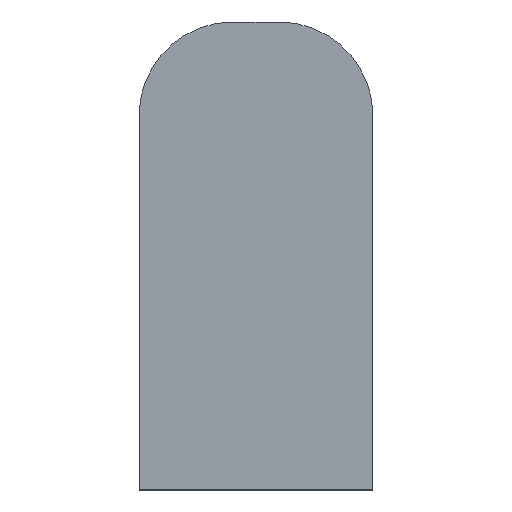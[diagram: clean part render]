
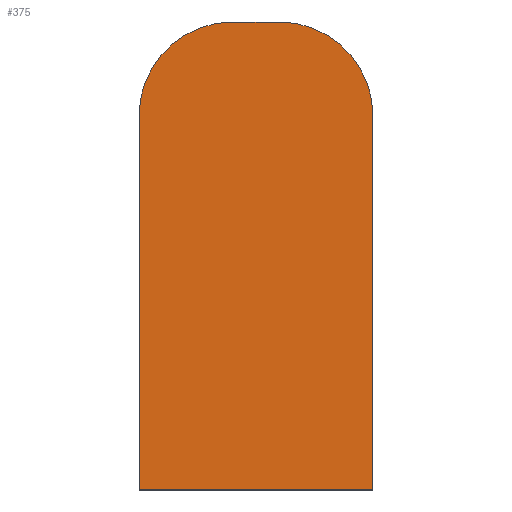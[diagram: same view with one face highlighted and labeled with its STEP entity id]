
A CAD part, top view. The second image highlights one B-rep face of the part: STEP entity #375.
In plain terms, the highlighted planar face has unit normal (0, 0, 1).
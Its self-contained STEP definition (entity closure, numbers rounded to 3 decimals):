
#14 = VERTEX_POINT ( 'NONE', #277 ) ;
#23 = CARTESIAN_POINT ( 'NONE',  ( 20., 0., 5. ) ) ;
#27 = DIRECTION ( 'NONE',  ( 1., 0., 0. ) ) ;
#44 = CARTESIAN_POINT ( 'NONE',  ( 8., 32., 5. ) ) ;
#51 = EDGE_CURVE ( 'NONE', #319, #410, #312, .T. ) ;
#63 = EDGE_LOOP ( 'NONE', ( #228, #273, #85, #361, #483, #385 ) ) ;
#73 = VERTEX_POINT ( 'NONE', #157 ) ;
#74 = CARTESIAN_POINT ( 'NONE',  ( 0., 32., 5. ) ) ;
#76 = EDGE_CURVE ( 'NONE', #492, #117, #235, .T. ) ;
#84 = CARTESIAN_POINT ( 'NONE',  ( 20., 32., 5. ) ) ;
#85 = ORIENTED_EDGE ( 'NONE', *, *, #230, .F. ) ;
#111 = DIRECTION ( 'NONE',  ( 0., 0., 1. ) ) ;
#117 = VERTEX_POINT ( 'NONE', #84 ) ;
#142 = CARTESIAN_POINT ( 'NONE',  ( 0., 40., 5. ) ) ;
#155 = VECTOR ( 'NONE', #485, 1000. ) ;
#157 = CARTESIAN_POINT ( 'NONE',  ( 12., 40., 5. ) ) ;
#160 = CARTESIAN_POINT ( 'NONE',  ( 0., 0., 5. ) ) ;
#172 = LINE ( 'NONE', #160, #155 ) ;
#178 = CARTESIAN_POINT ( 'NONE',  ( 8., 40., 5. ) ) ;
#191 = CARTESIAN_POINT ( 'NONE',  ( 20., 0., 5. ) ) ;
#193 = DIRECTION ( 'NONE',  ( 0., 0., 1. ) ) ;
#199 = VECTOR ( 'NONE', #428, 1000. ) ;
#213 = CARTESIAN_POINT ( 'NONE',  ( 12., 32., 5. ) ) ;
#216 = DIRECTION ( 'NONE',  ( 1., 0., 0. ) ) ;
#228 = ORIENTED_EDGE ( 'NONE', *, *, #388, .F. ) ;
#230 = EDGE_CURVE ( 'NONE', #14, #410, #172, .T. ) ;
#235 = LINE ( 'NONE', #191, #199 ) ;
#265 = CARTESIAN_POINT ( 'NONE',  ( 0., 0., 5. ) ) ;
#266 = CARTESIAN_POINT ( 'NONE',  ( 0., 0., 5. ) ) ;
#271 = AXIS2_PLACEMENT_3D ( 'NONE', #213, #111, #489 ) ;
#273 = ORIENTED_EDGE ( 'NONE', *, *, #51, .T. ) ;
#277 = CARTESIAN_POINT ( 'NONE',  ( 0., 0., 5. ) ) ;
#298 = PLANE ( 'NONE',  #463 ) ;
#303 = LINE ( 'NONE', #142, #310 ) ;
#310 = VECTOR ( 'NONE', #459, 1000. ) ;
#311 = DIRECTION ( 'NONE',  ( 1., 0., 0. ) ) ;
#312 = CIRCLE ( 'NONE', #401, 8. ) ;
#319 = VERTEX_POINT ( 'NONE', #178 ) ;
#343 = DIRECTION ( 'NONE',  ( 0., 0., 1. ) ) ;
#361 = ORIENTED_EDGE ( 'NONE', *, *, #417, .T. ) ;
#375 = ADVANCED_FACE ( 'NONE', ( #493 ), #298, .T. ) ;
#385 = ORIENTED_EDGE ( 'NONE', *, *, #446, .T. ) ;
#388 = EDGE_CURVE ( 'NONE', #319, #73, #303, .T. ) ;
#401 = AXIS2_PLACEMENT_3D ( 'NONE', #44, #193, #311 ) ;
#410 = VERTEX_POINT ( 'NONE', #74 ) ;
#414 = LINE ( 'NONE', #265, #436 ) ;
#417 = EDGE_CURVE ( 'NONE', #14, #492, #414, .T. ) ;
#421 = CIRCLE ( 'NONE', #271, 8. ) ;
#428 = DIRECTION ( 'NONE',  ( 0., 1., 0. ) ) ;
#436 = VECTOR ( 'NONE', #216, 1000. ) ;
#446 = EDGE_CURVE ( 'NONE', #117, #73, #421, .T. ) ;
#459 = DIRECTION ( 'NONE',  ( 1., 0., 0. ) ) ;
#463 = AXIS2_PLACEMENT_3D ( 'NONE', #266, #343, #27 ) ;
#483 = ORIENTED_EDGE ( 'NONE', *, *, #76, .T. ) ;
#485 = DIRECTION ( 'NONE',  ( 0., 1., 0. ) ) ;
#489 = DIRECTION ( 'NONE',  ( 1., 0., 0. ) ) ;
#492 = VERTEX_POINT ( 'NONE', #23 ) ;
#493 = FACE_OUTER_BOUND ( 'NONE', #63, .T. ) ;
